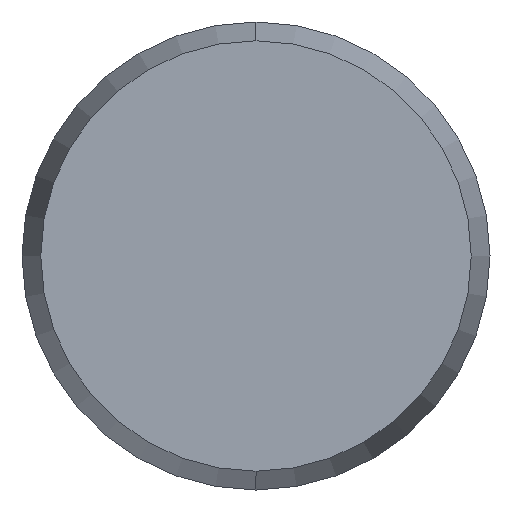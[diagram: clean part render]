
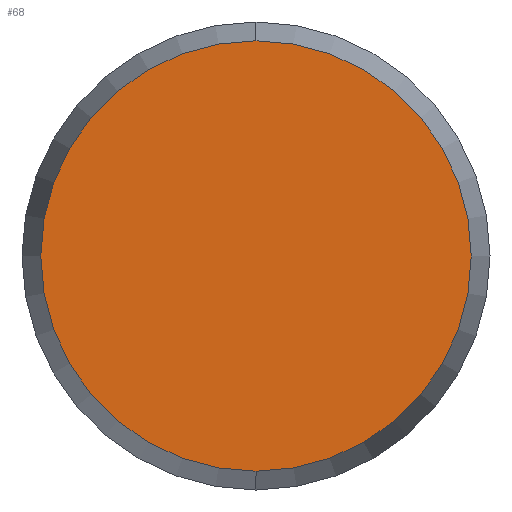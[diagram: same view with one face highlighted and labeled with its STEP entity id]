
A CAD part, left-side view. The second image highlights one B-rep face of the part: STEP entity #68.
In plain terms, the highlighted planar face has unit normal (-1, 0, 0).
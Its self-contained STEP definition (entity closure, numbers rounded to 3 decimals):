
#21 = ORIENTED_EDGE ( 'NONE', *, *, #48, .F. ) ;
#23 = ORIENTED_EDGE ( 'NONE', *, *, #65, .F. ) ;
#48 = EDGE_CURVE ( 'NONE', #49, #50, #218, .T. ) ;
#49 = VERTEX_POINT ( 'NONE', #219 ) ;
#50 = VERTEX_POINT ( 'NONE', #220 ) ;
#65 = EDGE_CURVE ( 'NONE', #50, #49, #244, .T. ) ;
#68 = ADVANCED_FACE ( 'NONE', ( #237 ), #236, .F. ) ;
#69 = EDGE_LOOP ( 'NONE', ( #21, #23 ) ) ;
#209 = AXIS2_PLACEMENT_3D ( 'NONE', #211, #210, #213 ) ;
#210 = DIRECTION ( 'NONE',  ( 1., 0., 0. ) ) ;
#211 = CARTESIAN_POINT ( 'NONE',  ( -10., 0., 0. ) ) ;
#213 = DIRECTION ( 'NONE',  ( 0., 0., -1. ) ) ;
#218 = CIRCLE ( 'NONE', #209, 4.598 ) ;
#219 = CARTESIAN_POINT ( 'NONE',  ( -10., 0., 4.598 ) ) ;
#220 = CARTESIAN_POINT ( 'NONE',  ( -10., 0., -4.598 ) ) ;
#234 = AXIS2_PLACEMENT_3D ( 'NONE', #239, #238, #235 ) ;
#235 = DIRECTION ( 'NONE',  ( 0., 0., -1. ) ) ;
#236 = PLANE ( 'NONE',  #234 ) ;
#237 = FACE_OUTER_BOUND ( 'NONE', #69, .T. ) ;
#238 = DIRECTION ( 'NONE',  ( 1., 0., 0. ) ) ;
#239 = CARTESIAN_POINT ( 'NONE',  ( -10., 0., 0. ) ) ;
#240 = AXIS2_PLACEMENT_3D ( 'NONE', #241, #242, #243 ) ;
#241 = CARTESIAN_POINT ( 'NONE',  ( -10., 0., 0. ) ) ;
#242 = DIRECTION ( 'NONE',  ( 1., 0., 0. ) ) ;
#243 = DIRECTION ( 'NONE',  ( 0., 0., -1. ) ) ;
#244 = CIRCLE ( 'NONE', #240, 4.598 ) ;
